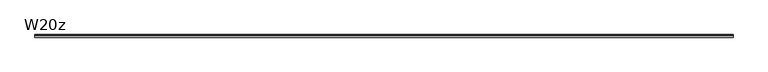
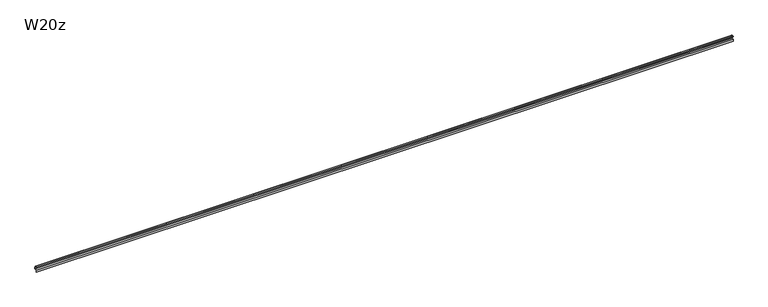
"""IFC4 building model written with IfcOpenShell, lengths in millimetres: proxy geometry, W20Z Profil okapowy prosty : W20z."""

from ifc_helpers import new_model, si_unit, point, frame, frame_2d, origin, place, context, project, spatial, polyline, circle_curve, trimmed, segment, composite_curve, outline, extrude, source, transform, mapped, element, save


def w20z_20cc60ac(model_context):
    return source(origin(), model_context, "Body", "SweptSolid", [
        extrude(outline(composite_curve([segment(polyline([(11.5999988, 22.3999996), (-1.4000015, 22.4), (-1.4000016, 23.6000009), (11.049999, 23.6000004)]), True, "CONTINUOUS"), segment(trimmed(circle_curve(frame_2d((11.0499989, 20.6000004)), 3.0), [point((11.049999, 23.6000004))], [point((13.8416655, 21.6984526))], False, "CARTESIAN"), True, "CONTINUOUS"), segment(trimmed(circle_curve(frame_2d((-39.2000005, 0.8278592)), 57.0), [point((13.8416655, 21.6984526))], [point((17.7939874, 6e-07))], False, "CARTESIAN"), True, "CONTINUOUS"), segment(polyline([(17.7939874, 6e-07), (0.0, 0.0), (0.0, -14.0), (-1.4000009, -14.0), (-1.4000005, 1.4), (11.5999995, 1.4000004), (11.5999988, 22.3999996)]), True, "CONTINUOUS")], self_intersect=False), holes=[composite_curve([segment(polyline([(12.9999993, 1.2000005), (16.798763, 1.2000006)]), True, "CONTINUOUS"), segment(trimmed(circle_curve(frame_2d((-39.2000005, 0.8278592)), 56.0), [point((16.798763, 1.2000006))], [point((13.9747737, 18.3904156))], True, "CARTESIAN"), True, "CONTINUOUS"), segment(trimmed(circle_curve(frame_2d((13.499999, 18.2336071)), 0.5), [point((13.9747737, 18.3904156))], [point((12.999999, 18.2336071))], True, "CARTESIAN"), True, "CONTINUOUS"), segment(polyline([(12.999999, 18.2336071), (12.9999993, 1.2000005)]), True, "CONTINUOUS")], self_intersect=False)]), frame((0.0, 0.0, 0.0), z_axis=(1.0, 0.0, 0.0), x_axis=(0.0, 1.0, 0.0)), (0.0, 0.0, 1.0), 5073.9969854),
    ])


if __name__ == "__main__":
    model = new_model("IFC4")
    model_context = context("Model", 3, world=origin())
    ifc_project = project(units=[si_unit("LENGTHUNIT", "METRE", prefix="MILLI")], contexts=[model_context])
    site = spatial("IfcSite", under=ifc_project)
    building = spatial("IfcBuilding", under=site)
    placement = place(None, origin())
    w20z_shape = w20z_20cc60ac(model_context)
    element("IfcBuildingElementProxy", 1, Name="W20Z Profil okapowy prosty : W20z", ObjectType="W20Z Profil okapowy prosty : W20z", at=placement, inside=building, context=model_context, shape_type="MappedRepresentation", body=[
        mapped(w20z_shape, transform((0.0, 0.0, 0.0), x_axis=(1.0, 0.0, 0.0), y_axis=(0.0, 1.0, 0.0), z_axis=(0.0, 0.0, 1.0))),
    ])
    save(model, "model.ifc")
